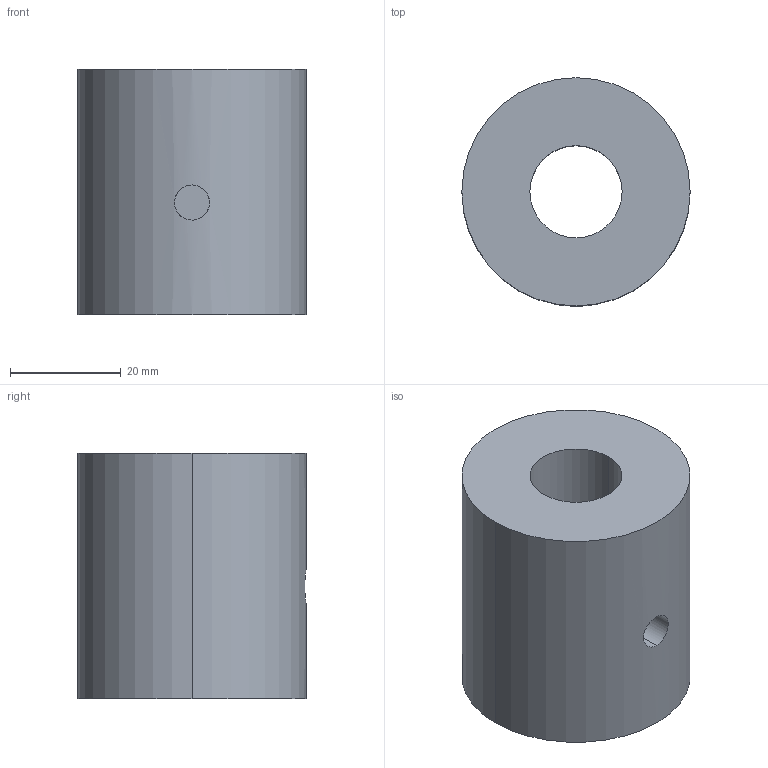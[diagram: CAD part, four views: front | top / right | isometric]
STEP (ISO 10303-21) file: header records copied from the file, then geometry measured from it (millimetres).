
FILE_DESCRIPTION (( 'STEP AP203' ), '1' );
FILE_NAME ('269-18-205.STEP', '2020-03-03T16:56:20', ( '' ), ( '' ), 'SwSTEP 2.0', 'SolidWorks 2017', '' );
FILE_SCHEMA (( 'CONFIG_CONTROL_DESIGN' ));
Length unit declared in the file: inch
Products named in the file (1): 269-18-205
Bounding box: 41.27 x 41.27 x 44.45 mm (x, y, z)
Volume: 38902.1 mm3; surface area: 11535.6 mm2
Topology: 1 solids, 1 shells, 17 faces, 42 edges, 28 vertices
Faces by surface type: cylinder 10, plane 7
Entity records: 663 total; most frequent: CARTESIAN_POINT 154, DIRECTION 94, ORIENTED_EDGE 84, EDGE_CURVE 42, AXIS2_PLACEMENT_3D 36, VERTEX_POINT 28, LINE 22, VECTOR 22
